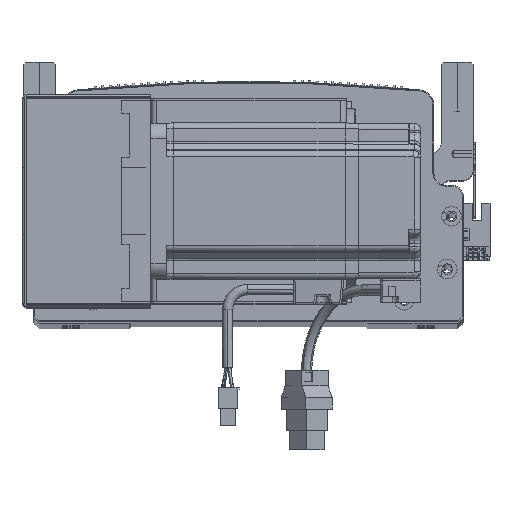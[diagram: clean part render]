
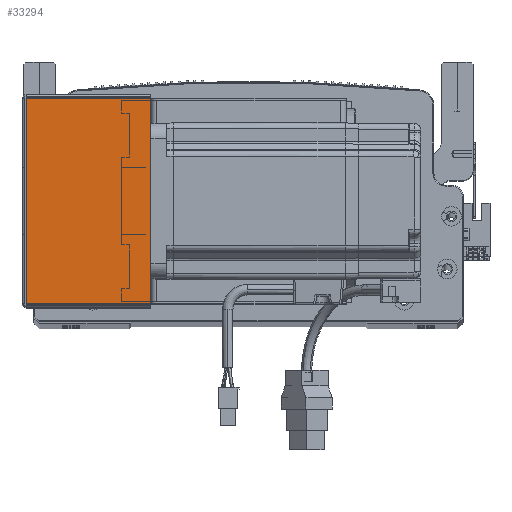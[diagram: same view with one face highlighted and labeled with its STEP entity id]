
A CAD part, top view. The second image highlights one B-rep face of the part: STEP entity #33294.
In plain terms, the highlighted planar face has unit normal (0, 0, 1) as drawn and (0, 0, -1) by its records, which use the part's own axes.
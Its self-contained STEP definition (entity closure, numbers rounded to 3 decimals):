
#2099 = LINE ( 'NONE', #26129, #4254 ) ;
#4254 = VECTOR ( 'NONE', #74362, 1000. ) ;
#6689 = DIRECTION ( 'NONE',  ( 1., 0., 0. ) ) ;
#8184 = LINE ( 'NONE', #14206, #56143 ) ;
#9339 = VERTEX_POINT ( 'NONE', #68084 ) ;
#10683 = EDGE_CURVE ( 'NONE', #81907, #51524, #40671, .T. ) ;
#13773 = FACE_OUTER_BOUND ( 'NONE', #65341, .T. ) ;
#13906 = ORIENTED_EDGE ( 'NONE', *, *, #49410, .T. ) ;
#14060 = VERTEX_POINT ( 'NONE', #71420 ) ;
#14206 = CARTESIAN_POINT ( 'NONE',  ( 0., 0.707, -205.5 ) ) ;
#18072 = ORIENTED_EDGE ( 'NONE', *, *, #50424, .F. ) ;
#20042 = DIRECTION ( 'NONE',  ( 1., 0., 0. ) ) ;
#22651 = CARTESIAN_POINT ( 'NONE',  ( 0.737, 0.707, -205.5 ) ) ;
#24308 = LINE ( 'NONE', #88351, #79789 ) ;
#26129 = CARTESIAN_POINT ( 'NONE',  ( 64.5, 0., -205.5 ) ) ;
#33294 = ADVANCED_FACE ( 'NONE', ( #13773 ), #60485, .F. ) ;
#33738 = DIRECTION ( 'NONE',  ( 0., 0., 1. ) ) ;
#39803 = CARTESIAN_POINT ( 'NONE',  ( 0.737, 105.293, -205.5 ) ) ;
#40671 = LINE ( 'NONE', #79453, #53472 ) ;
#49410 = EDGE_CURVE ( 'NONE', #81907, #9339, #24308, .T. ) ;
#50424 = EDGE_CURVE ( 'NONE', #51524, #14060, #8184, .T. ) ;
#51524 = VERTEX_POINT ( 'NONE', #22651 ) ;
#53472 = VECTOR ( 'NONE', #85996, 1000. ) ;
#53704 = CARTESIAN_POINT ( 'NONE',  ( 0., 0., -205.5 ) ) ;
#55339 = EDGE_CURVE ( 'NONE', #9339, #14060, #2099, .T. ) ;
#56143 = VECTOR ( 'NONE', #82476, 1000. ) ;
#56483 = ORIENTED_EDGE ( 'NONE', *, *, #10683, .F. ) ;
#57369 = ORIENTED_EDGE ( 'NONE', *, *, #55339, .T. ) ;
#60485 = PLANE ( 'NONE',  #62398 ) ;
#62398 = AXIS2_PLACEMENT_3D ( 'NONE', #53704, #33738, #20042 ) ;
#65341 = EDGE_LOOP ( 'NONE', ( #56483, #13906, #57369, #18072 ) ) ;
#68084 = CARTESIAN_POINT ( 'NONE',  ( 64.5, 105.293, -205.5 ) ) ;
#71420 = CARTESIAN_POINT ( 'NONE',  ( 64.5, 0.707, -205.5 ) ) ;
#74362 = DIRECTION ( 'NONE',  ( 0., -1., 0. ) ) ;
#79453 = CARTESIAN_POINT ( 'NONE',  ( 0.737, 0., -205.5 ) ) ;
#79789 = VECTOR ( 'NONE', #6689, 1000. ) ;
#81907 = VERTEX_POINT ( 'NONE', #39803 ) ;
#82476 = DIRECTION ( 'NONE',  ( 1., 0., 0. ) ) ;
#85996 = DIRECTION ( 'NONE',  ( 0., -1., 0. ) ) ;
#88351 = CARTESIAN_POINT ( 'NONE',  ( 0., 105.293, -205.5 ) ) ;
